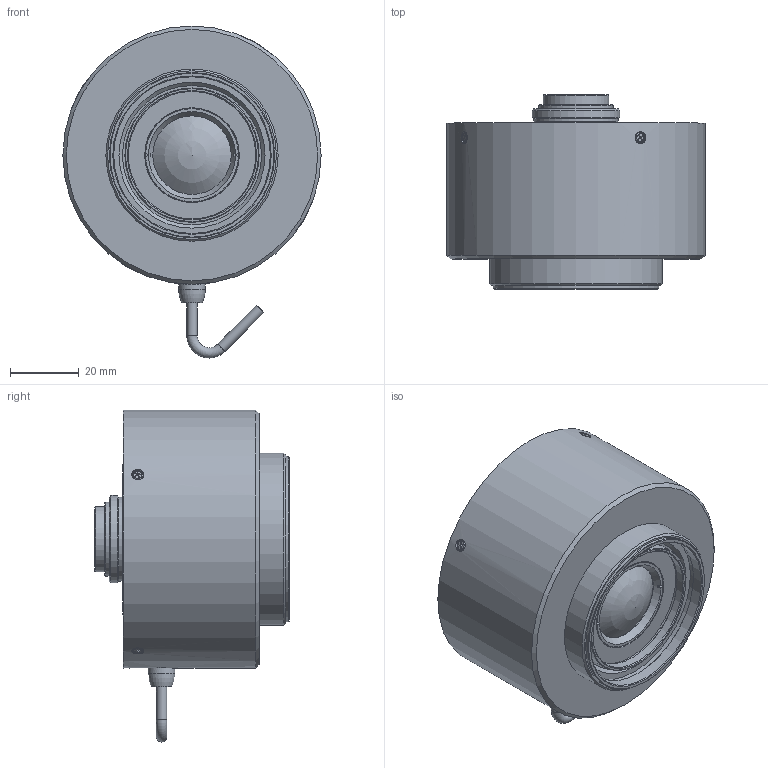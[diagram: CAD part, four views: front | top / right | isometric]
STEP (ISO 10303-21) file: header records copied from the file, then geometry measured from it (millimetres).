
FILE_DESCRIPTION(/* description */ ('Unknown'),/* implementation_level */ '2;1');
FILE_NAME(/* name */ 'VL1226U-MPZ_210607',/* time_stamp */ '2021-06-07T12:52:31+09:00',/* author */ ('Unknown'),/* organization */ ('Unknown'),/* preprocessor_version */ 'ST-DEVELOPER v16.7',/* originating_system */ 'DEX',/* authorisation */ $);
FILE_SCHEMA (('AUTOMOTIVE_DESIGN {1 0 10303 214 3 1 1}'));
Length unit declared in the file: millimetre
Products named in the file (1): VL1226U-MPZ
Bounding box: 75 x 56.4 x 96.4 mm (x, y, z)
Volume: 184743.7 mm3; surface area: 23018.8 mm2
Topology: 1 solids, 11 shells, 423 faces, 1052 edges, 699 vertices
Faces by surface type: plane 287, cylinder 83, cone 40, torus 11, sphere 2
Full cylindrical faces by diameter (mm): 1.7 x3, 1.8 x3, 2 x9, 2.2 x9, 3 x14, 3.5 x7, 3.6 x1, 4 x4, 7.699 x1, 15.3 x1, 19 x1, 21.498 x1, 22.8 x1, 24.398 x1, 25.4 x1, 33.5 x1, 37 x1, 37.5 x1, 39 x1, 44 x1, 45.5 x1, 46 x1, 48 x1, 50 x1, 75 x1
Entity records: 14720 total; most frequent: CARTESIAN_POINT 2215, DIRECTION 1911, ORIENTED_EDGE 1798, EDGE_CURVE 899, VERTEX_POINT 653, LINE 641, VECTOR 641, AXIS2_PLACEMENT_3D 635
